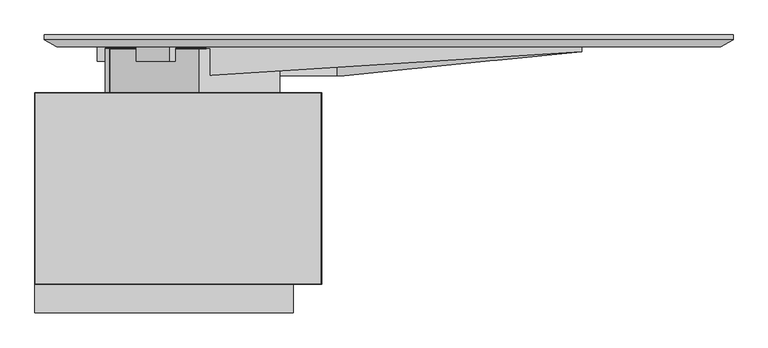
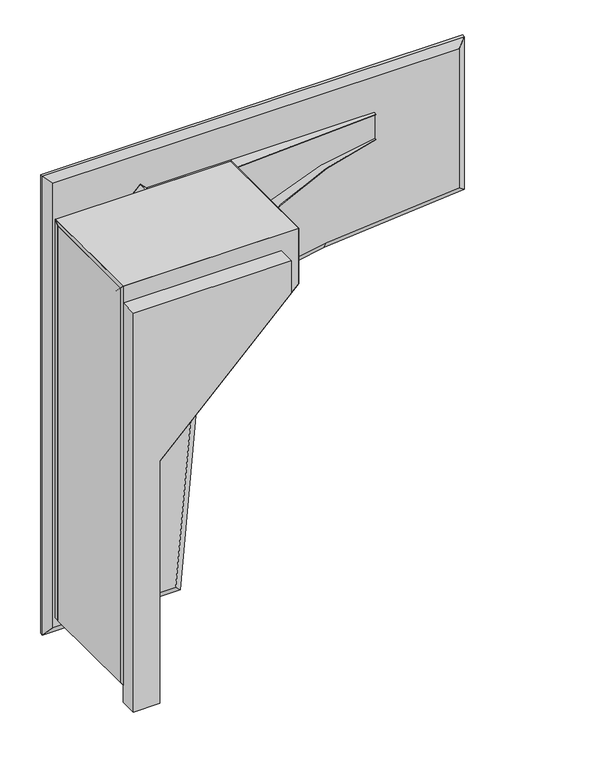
"""IFC4 building model written with IfcOpenShell, lengths in millimetres: proxy geometry, CCN^APOGEE_L1 DESK-ASSEMBLY."""

from ifc_helpers import new_model, si_unit, frame, origin, place, context, project, spatial, polyline, circle_curve, ellipse_curve, outline, extrude, faceted_brep, source, transform, mapped, element, save
from ifc_brep_helpers import plane_surface, cylinder_surface, revolved_surface, advanced_brep


def generic_models_fdecc824(model_context):
    return source(origin(), model_context, "Body", "SolidModel", [
        extrude(outline(polyline([(-2743.2, 490.9058), (-2762.25, 490.9058), (-2762.25, 492.125), (-2743.2, 492.125), (-2743.2, 490.9058)])), frame((0.0, 0.0, 1253.9958833), z_axis=(0.0, 0.0, 1.0), x_axis=(1.0, 0.0, 0.0)), (0.0, 0.0, 1.0), 306.0530667),
        extrude(outline(polyline([(-2743.2, 490.9058), (-2743.2, 22.65045), (-2762.25, 22.65045), (-2762.25, 490.9058), (-2743.2, 490.9058)])), frame((0.0, 0.0, 1560.04895), z_axis=(0.0, 0.0, 1.0), x_axis=(1.0, 0.0, 0.0)), (0.0, 0.0, 1.0), 1.2192),
        extrude(outline(polyline([(-2743.2, 490.9058), (-2743.2, 22.65045), (-2762.25, 22.65045), (-2762.25, 490.9058), (-2743.2, 490.9058)])), frame((0.0, 0.0, 1252.7766833), z_axis=(0.0, 0.0, 1.0), x_axis=(1.0, 0.0, 0.0)), (0.0, 0.0, 1.0), 1.2192),
        extrude(outline(polyline([(-2762.25, 22.65045), (-2743.2, 22.65045), (-2743.2, 21.43125), (-2762.25, 21.43125), (-2762.25, 22.65045)])), frame((0.0, 0.0, 1253.9958833), z_axis=(0.0, 0.0, 1.0), x_axis=(1.0, 0.0, 0.0)), (0.0, 0.0, 1.0), 306.0530667),
        extrude(outline(polyline([(-2743.2, 492.125), (-2743.2, 21.43125), (-2762.25, 21.43125), (-2762.25, 492.125), (-2743.2, 492.125)])), frame((0.0, 0.0, 631.03125), z_axis=(0.0, 0.0, 1.0), x_axis=(1.0, 0.0, 0.0)), (0.0, 0.0, 1.0), 308.4914667),
        extrude(outline(polyline([(-2743.2, 490.9058), (-2743.2, 22.65045), (-2762.25, 22.65045), (-2762.25, 490.9058), (-2743.2, 490.9058)])), frame((0.0, 0.0, 1253.9958833), z_axis=(0.0, 0.0, 1.0), x_axis=(1.0, 0.0, 0.0)), (0.0, 0.0, 1.0), 306.0530667),
        extrude(outline(polyline([(-2743.2, 492.125), (-2743.2, 21.43125), (-2762.25, 21.43125), (-2762.25, 492.125), (-2743.2, 492.125)])), frame((0.0, 0.0, 941.9039667), z_axis=(0.0, 0.0, 1.0), x_axis=(1.0, 0.0, 0.0)), (0.0, 0.0, 1.0), 308.4914667),
        extrude(outline(polyline([(469.9, -19.05), (0.0, -19.05), (0.0, 0.0), (469.9, 0.0), (469.9, -19.05)])), frame((-2672.2200556, 488.95, 1645.7799444), z_axis=(0.7071067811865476, 0.0, 0.7071067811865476), x_axis=(0.0, -1.0, 0.0)), (0.0, 0.0, 1.0), 1.2192),
        extrude(outline(polyline([(0.0, 19.05), (469.9, 19.05), (469.9, 0.0), (0.0, 0.0), (0.0, 19.05)])), frame((-2205.442049, 19.05, 2112.557951), z_axis=(0.7071067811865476, 0.0, 0.7071067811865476), x_axis=(0.0, 1.0, 0.0)), (0.0, 0.0, 1.0), 1.2192),
        extrude(outline(polyline([(1645.7799444, -2672.2200556), (1659.2503286, -2685.6904398), (1582.6907684, -2762.25), (1574.8, -2743.2), (1645.7799444, -2672.2200556)])), frame((0.0, 19.05, 0.0), z_axis=(0.0, 1.0, 0.0), x_axis=(0.0, 0.0, 1.0)), (0.0, 0.0, 1.0), 469.9),
        extrude(outline(polyline([(2126.8904398, -2218.0503286), (2113.4200556, -2204.5799444), (2184.4, -2133.6), (2192.2907684, -2152.65), (2126.8904398, -2218.0503286)])), frame((0.0, 19.05, 0.0), z_axis=(0.0, 1.0, 0.0), x_axis=(0.0, 0.0, 1.0)), (0.0, 0.0, 1.0), 469.9),
        extrude(outline(polyline([(19.05, 2184.9050092), (0.0, 2184.9050092), (0.0, 2438.4), (19.05, 2419.35), (19.05, 2184.9050092)])), frame((-2134.8192, 0.0, 0.0), z_axis=(1.0, 0.0, 0.0), x_axis=(0.0, 1.0, 0.0)), (0.0, 0.0, 1.0), 1.2192),
        extrude(outline(polyline([(-2744.4192, 19.05), (-2744.4192, 0.0), (-2894.3808, 0.0), (-2894.3808, 19.05), (-2744.4192, 19.05)])), frame((0.0, 0.0, 609.6), z_axis=(0.0, 0.0, 1.0), x_axis=(1.0, 0.0, 0.0)), (0.0, 0.0, 1.0), 1.2192),
        extrude(outline(polyline([(0.0, 610.8192), (0.0, 2438.4), (19.05, 2419.35), (19.05, 610.8192), (0.0, 610.8192)])), frame((-2895.6, 0.0, 0.0), z_axis=(1.0, 0.0, 0.0), x_axis=(0.0, 1.0, 0.0)), (0.0, 0.0, 1.0), 1.2192),
        extrude(outline(polyline([(-2744.4192, 0.0), (-2744.4192, 19.05), (-2743.2, 19.05), (-2743.2, 0.0), (-2744.4192, 0.0)])), frame((0.0, 0.0, 610.8192), z_axis=(0.0, 0.0, 1.0), x_axis=(1.0, 0.0, 0.0)), (0.0, 0.0, 1.0), 964.4858092),
        extrude(outline(polyline([(0.0, -9.525), (0.0, 9.525), (1.2192, 9.525), (1.2192, -9.525), (0.0, -9.525)])), frame((-2744.4192, 9.525, 1575.3050092), z_axis=(0.707106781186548, 0.0, 0.7071067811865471), x_axis=(0.7071067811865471, 0.0, -0.707106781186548)), (0.0, 0.0, 1.0), 862.1045876),
        faceted_brep([(-2894.3808, 0.0, 610.8192), (-2744.4192, 0.0, 610.8192), (-2744.4192, 0.0, 1575.3050092), (-2134.8192, 0.0, 2184.9050092), (-2134.8192, 0.0, 2438.4), (-2894.3808, 0.0, 2438.4), (-2744.4192, 19.05, 1575.3050092), (-2744.4192, 19.05, 610.8192), (-2894.3808, 19.05, 610.8192), (-2894.3808, 19.05, 2419.35), (-2134.8192, 19.05, 2419.35), (-2134.8192, 19.05, 2184.9050092)], [[[0, 1, 2, 3, 4, 5]], [[6, 7, 8, 9, 10, 11]], [[3, 2, 6, 11]], [[2, 1, 7, 6]], [[7, 1, 0, 8]], [[9, 5, 4, 10]], [[3, 11, 10, 4]], [[0, 5, 9, 8]]]),
        extrude(outline(polyline([(2196.7373712, -2454.3556628), (2170.4737141, -2480.6193198), (2170.4737141, -2476.7290729), (2146.9849562, -2500.2178308), (2150.8752032, -2500.2178308), (2124.6115461, -2526.4814878), (2124.6115461, -2527.189132), (2096.6811535, -2555.1195246), (2088.1966075, -2555.1195246), (2060.2662149, -2527.189132), (2060.2662149, -2526.4814878), (2050.6052554, -2516.8205283), (2054.4955024, -2516.8205283), (2031.0354813, -2493.3605072), (2031.0354813, -2497.2507541), (2021.3745217, -2487.5897946), (2020.6668776, -2487.5897946), (1992.736485, -2459.659402), (1992.736485, -2451.174856), (2020.6668776, -2423.2444634), (2021.3745217, -2423.2444634), (2047.6381788, -2396.9808064), (2047.6381788, -2400.8710533), (2071.1269367, -2377.3822954), (2067.2366897, -2377.3822954), (2093.5003468, -2351.1186384), (2093.5003468, -2350.4109942), (2121.4307394, -2322.4806016), (2129.9152854, -2322.4806016), (2157.845678, -2350.4109942), (2157.845678, -2351.1186384), (2167.5066375, -2360.7795979), (2163.6163905, -2360.7795979), (2187.0764116, -2384.239619), (2187.0764116, -2380.3493721), (2196.7373712, -2390.0103316), (2197.4450153, -2390.0103316), (2225.3754079, -2417.9407242), (2225.3754079, -2426.4252702), (2197.4450153, -2454.3556628), (2196.7373712, -2454.3556628)])), frame((0.0, 8.001, 0.0), z_axis=(0.0, 1.0, 0.0), x_axis=(0.0, 0.0, 1.0)), (0.0, 0.0, 1.0), 566.19902),
        extrude(outline(polyline([(9.525, 0.0), (-9.525, 0.0), (-9.525, 1.2192), (9.525, 1.2192), (9.525, 0.0)])), frame((-2443.4311885, 484.5558, 1888.0391957), z_axis=(0.7071067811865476, 0.0, 0.7071067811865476), x_axis=(0.7071067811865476, 0.0, -0.7071067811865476)), (0.0, 0.0, 1.0), 323.4420188),
        extrude(outline(polyline([(463.12455, 0.0), (1.2192, 0.0), (1.2192, 19.05), (463.12455, 19.05), (463.12455, 0.0)])), frame((-2207.9879516, 21.43125, 2110.0120484), z_axis=(0.7071067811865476, 0.0, 0.7071067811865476), x_axis=(0.0, 1.0, 0.0)), (0.0, 0.0, 1.0), 1.2192),
        extrude(outline(polyline([(1.2192, 0.0), (463.12455, 0.0), (463.12455, -19.05), (1.2192, -19.05), (1.2192, 0.0)])), frame((-2437.558101, 485.775, 1880.441899), z_axis=(0.7071067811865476, 0.0, 0.7071067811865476), x_axis=(0.0, -1.0, 0.0)), (0.0, 0.0, 1.0), 1.2192),
        extrude(outline(polyline([(-9.525, 0.0), (9.525, 0.0), (9.525, -1.2192), (-9.525, -1.2192), (-9.525, 0.0)])), frame((-2443.4311885, 22.65045, 1888.0391957), z_axis=(0.7071067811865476, 0.0, 0.7071067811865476), x_axis=(0.7071067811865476, 0.0, -0.7071067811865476)), (0.0, 0.0, 1.0), 323.4420188),
        extrude(outline(polyline([(1.2192, 0.0), (463.12455, 0.0), (463.12455, -19.05), (1.2192, -19.05), (1.2192, 0.0)])), frame((-2436.6959964, 485.775, 1881.3040036), z_axis=(0.7071067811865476, 0.0, 0.7071067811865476), x_axis=(0.0, -1.0, 0.0)), (0.0, 0.0, 1.0), 323.4420188),
        extrude(outline(polyline([(0.0, 0.0), (464.34375, 0.0), (464.34375, -19.05), (0.0, -19.05), (0.0, 0.0)])), frame((-2669.674153, 485.775, 1648.325847), z_axis=(0.7071067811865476, 0.0, 0.7071067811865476), x_axis=(0.0, -1.0, 0.0)), (0.0, 0.0, 1.0), 325.8804188),
        extrude(outline(polyline([(1966.2204827, -2472.9887962), (2369.7816865, -2876.55), (2342.8409182, -2876.55), (1952.7500985, -2486.4591804), (1966.2204827, -2472.9887962)])), frame((0.0, 19.05, 0.0), z_axis=(0.0, 1.0, 0.0), x_axis=(0.0, 0.0, 1.0)), (0.0, 0.0, 1.0), 469.9),
        advanced_brep(
        [(-2458.3469688, 623.8875, 2342.5726582), (-2093.3135115, 623.8875, 1977.5392009), (-1443.447468, 623.8875, 2230.938548), (-1443.447468, 623.8875, 2342.5726582), (-2093.3135115, 554.0375, 1977.5392009), (-2074.0665247, 554.0375, 1992.2118285), (-1443.447468, 617.5375, 2230.938548), (-1443.447468, 630.2375, 2345.2294982), (-1443.447468, 630.2375, 2228.2726582), (-2091.420239, 630.2375, 1975.6459284), (-2305.390045, 630.2375, 1761.6761223), (-2558.0167749, 630.2375, 1113.7033513), (-2674.9736149, 630.2375, 1113.7033513), (-2674.9736149, 630.2375, 2129.7033513), (-2459.447468, 630.2375, 2345.2294982), (-2560.6826647, 623.8875, 1113.7033513), (-2307.2833176, 623.8875, 1763.5693949), (-2672.3167749, 623.8875, 2128.6028522), (-2672.3167749, 623.8875, 1113.7033513), (-2307.2833176, 554.0375, 1763.5693949), (-2672.3167749, 554.0375, 2128.6028522), (-2458.3469688, 554.0375, 2342.5726582), (-2446.747468, 554.0375, 2342.5726582), (-2446.747468, 554.0375, 2345.2294982), (-2459.447468, 554.0375, 2345.2294982), (-2674.9736149, 554.0375, 2129.7033513), (-2674.9736149, 554.0375, 2117.0033513), (-2672.3167749, 554.0375, 2117.0033513), (-2321.9559452, 554.0375, 1744.322408), (-2318.6379862, 554.0375, 1744.322408), (-2305.390045, 554.0375, 1761.6761223), (-2091.420239, 554.0375, 1975.6459284), (-2074.0665247, 554.0375, 1988.8938696), (-1443.447468, 617.5375, 2228.2726582), (-2672.3167749, 617.5375, 1113.7033513), (-2674.9736149, 617.5375, 1113.7033513), (-1443.447468, 617.5375, 2342.5726582), (-1443.447468, 617.5375, 2345.2294982), (-2558.0167749, 617.5375, 1113.7033513), (-2560.6826647, 617.5375, 1113.7033513)],
        [
            (0, 1),
            (1, 2, circle_curve(frame((-1342.9645827, 623.8875, 1013.220466), z_axis=(0.0, 1.0000000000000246, 0.0), x_axis=(0.0822378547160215, 0.0, -0.9966127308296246)), 1221.85684)),
            (2, 3),
            (3, 0),
            (1, 4),
            (4, 5, circle_curve(frame((-1342.9645827, 554.0375, 1013.220466), z_axis=(0.0, 1.0000000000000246, 0.0), x_axis=(0.0822378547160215, 0.0, -0.9966127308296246)), 1221.85684)),
            (5, 6, ellipse_curve(frame((-1342.9645827, 627.6555945, 1013.220466), z_axis=(-0.10018806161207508, 0.9949685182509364, 0.0), x_axis=(0.9949685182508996, 0.10018806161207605, 0.0)), 1228.0356791, 1221.85684)),
            (6, 2),
            (7, 8),
            (8, 9, circle_curve(frame((-1342.9645827, 630.2375, 1013.220466), z_axis=(0.0, -1.0000000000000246, 0.0), x_axis=(-0.08241706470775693, 0.0, 0.9965979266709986)), 1219.2)),
            (9, 10),
            (10, 11, circle_curve(frame((-1342.9645827, 630.2375, 1013.220466), z_axis=(0.0, -1.0000000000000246, 0.0), x_axis=(-0.08241706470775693, 0.0, 0.9965979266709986)), 1219.2)),
            (11, 12),
            (12, 13),
            (13, 14),
            (14, 7),
            (15, 16, circle_curve(frame((-1342.9645827, 623.8875, 1013.220466), z_axis=(0.0, 1.0000000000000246, 0.0), x_axis=(0.0822378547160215, 0.0, -0.9966127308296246)), 1221.85684)),
            (16, 17),
            (17, 18),
            (18, 15),
            (16, 19),
            (19, 20),
            (20, 17),
            (4, 21),
            (21, 22),
            (22, 23),
            (23, 24),
            (24, 25),
            (25, 26),
            (26, 27),
            (27, 20),
            (19, 28, circle_curve(frame((-1342.9645827, 554.0375, 1013.220466), z_axis=(0.0, -1.0000000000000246, 0.0), x_axis=(0.0822378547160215, 0.0, -0.9966127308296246)), 1221.85684)),
            (28, 29),
            (29, 30, circle_curve(frame((-1342.9645827, 554.0375, 1013.220466), z_axis=(0.0, 1.0000000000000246, 0.0), x_axis=(-0.08241706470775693, 0.0, 0.9965979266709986)), 1219.2)),
            (30, 31),
            (31, 32, circle_curve(frame((-1342.9645827, 554.0375, 1013.220466), z_axis=(0.0, 1.0000000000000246, 0.0), x_axis=(-0.08241706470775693, 0.0, 0.9965979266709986)), 1219.2)),
            (32, 5),
            (30, 10),
            (9, 31),
            (8, 33),
            (33, 32, ellipse_curve(frame((-1342.9645827, 627.6555945, 1013.220466), z_axis=(0.10018806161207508, -0.9949685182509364, 0.0), x_axis=(0.9949685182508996, 0.10018806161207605, 0.0)), 1225.3654037, 1219.2)),
            (34, 27),
            (26, 35),
            (35, 34),
            (25, 13),
            (12, 35),
            (22, 36),
            (36, 37),
            (37, 23),
            (36, 3),
            (6, 33),
            (7, 37),
            (21, 0),
            (38, 29, ellipse_curve(frame((-1342.9645827, 627.6555945, 1013.220466), z_axis=(0.0, 0.9949685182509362, 0.10018806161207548), x_axis=(0.0, 0.1001880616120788, -0.9949685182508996)), 1225.3654037, 1219.2)),
            (28, 39, ellipse_curve(frame((-1342.9645827, 627.6555945, 1013.220466), z_axis=(0.0, -0.9949685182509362, -0.10018806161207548), x_axis=(0.0, 0.1001880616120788, -0.9949685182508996)), 1228.0356791, 1221.85684)),
            (39, 38),
            (15, 39),
            (38, 11),
            (14, 24),
            (34, 18),
        ],
        [
            plane_surface(frame((-1482.4613443, 623.8875, 2287.5512931), z_axis=(0.0, -1.0000000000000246, 0.0), x_axis=(0.7523994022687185, 0.0, -0.6587071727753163))),
            cylinder_surface(frame((-1342.9645827, 554.0375, 1013.220466), z_axis=(0.0, 1.0000000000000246, 0.0), x_axis=(0.0822378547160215, 0.0, -0.9966127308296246)), 1221.85684),
            plane_surface(frame((-2345.107517, 630.2375, 2015.3634004), z_axis=(0.0, 1.0000000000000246, 0.0), x_axis=(0.7523994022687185, 0.0, -0.6587071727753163))),
            plane_surface(frame((-2651.2747259, 623.8875, 2056.7608032), z_axis=(0.0, -1.0000000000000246, 0.0), x_axis=(-0.7523994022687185, 0.0, 0.6587071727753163))),
            plane_surface(frame((-2672.3167749, 554.0375, 2128.6028522), z_axis=(-0.7071067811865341, 0.0, -0.7071067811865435), x_axis=(0.0, 1.0000000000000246, 0.0))),
            plane_surface(frame((-2345.107517, 554.0375, 2015.3634004), z_axis=(0.0, -1.0000000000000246, 0.0), x_axis=(-0.7523994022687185, 0.0, 0.6587071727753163))),
            plane_surface(frame((-2091.420239, 554.0375, 1975.6459284), z_axis=(0.7071067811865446, 0.0, -0.707106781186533), x_axis=(-0.707106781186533, 0.0, -0.7071067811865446))),
            revolved_surface(polyline([(-1443.4474679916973, 750.4225790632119, 2228.2726581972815), (-1443.4474679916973, 504.88860993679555, 2228.2726581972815)]), (-1342.9645827, 554.0375, 1013.220466), (0.0, 1.0000000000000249, 0.0)),
            plane_surface(frame((-2674.9736149, 617.5375, 1113.7033513), z_axis=(0.0, -0.9980031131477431, -0.06316475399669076), x_axis=(0.0, -0.06316475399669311, 0.9980031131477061))),
            plane_surface(frame((-2674.9736149, 630.2375, 2129.7033513), z_axis=(-0.9999999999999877, 0.0, 0.0), x_axis=(0.0, 0.0, -0.9999999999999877))),
            plane_surface(frame((-2446.747468, 554.0375, 2345.2294982), z_axis=(0.06316475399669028, -0.9980031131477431, 0.0), x_axis=(0.9980031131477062, 0.06316475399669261, 0.0))),
            plane_surface(frame((-1443.447468, 554.0375, 2230.938548), z_axis=(0.9999999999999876, 0.0, 0.0), x_axis=(0.0, 0.0, -0.9999999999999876))),
            plane_surface(frame((-2458.3469688, 630.2375, 2342.5726582), z_axis=(0.0, 0.0, -0.9999999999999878), x_axis=(0.9999999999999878, 0.0, 0.0))),
            plane_surface(frame((-2510.040566, 585.7875, 1429.0128797), z_axis=(0.0, -0.9949685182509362, -0.10018806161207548), x_axis=(-0.7507497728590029, -0.06618290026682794, 0.6572629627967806))),
            plane_surface(frame((-1758.7569963, 585.7875, 2123.1509742), z_axis=(0.10018806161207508, -0.9949685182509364, 0.0), x_axis=(-0.7502492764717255, -0.0755461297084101, 0.6568247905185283))),
            plane_surface(frame((-2458.3469688, 630.2375, 2342.5726582), z_axis=(0.7071067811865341, 0.0, 0.7071067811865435), x_axis=(0.0, -1.0000000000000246, 0.0))),
            revolved_surface(polyline([(-1443.4474679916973, 750.4225790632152, 2228.2726581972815), (-1443.4474679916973, 504.88860993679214, 2228.2726581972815)]), (-1342.9645827, 554.0375, 1013.220466), (0.0, 1.0000000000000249, 0.0)),
            plane_surface(frame((-1443.447468, 630.2375, 2345.2294982), z_axis=(0.0, 0.0, 0.9999999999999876), x_axis=(-0.9999999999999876, 0.0, 0.0))),
            plane_surface(frame((-2672.3167749, 630.2375, 1113.7033513), z_axis=(0.9999999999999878, 0.0, 0.0), x_axis=(0.0, 0.0, 0.9999999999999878))),
            plane_surface(frame((-2674.9736149, 630.2375, 1113.7033513), z_axis=(0.0, 0.0, -0.9999999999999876), x_axis=(0.9999999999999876, 0.0, 0.0))),
            plane_surface(frame((-2459.447468, 630.2375, 2345.2294982), z_axis=(-0.707106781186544, 0.0, 0.7071067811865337), x_axis=(-0.7071067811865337, 0.0, -0.707106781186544))),
        ],
        [
            (0, [[1, 2, 3, 4]]),
            (1, [[-2, 5, 6, 7, 8]]),
            (2, [[9, 10, 11, 12, 13, 14, 15, 16]]),
            (3, [[17, 18, 19, 20]]),
            (4, [[-18, 21, 22, 23]]),
            (5, [[24, 25, 26, 27, 28, 29, 30, 31, -22, 32, 33, 34, 35, 36, 37, -6]]),
            (6, [[-35, 38, -11, 39]]),
            (7, [[-39, -10, 40, 41, -36]]),
            (8, [[42, -30, 43, 44]]),
            (9, [[-43, -29, 45, -14, 46]]),
            (10, [[47, 48, 49, -26]]),
            (11, [[-48, 50, -3, -8, 51, -40, -9, 52]]),
            (12, [[-4, -50, -47, -25, 53]]),
            (13, [[54, -33, 55, 56]]),
            (1, [[-17, 57, -55, -32, -21]]),
            (14, [[-41, -51, -7, -37]]),
            (15, [[-1, -53, -24, -5]]),
            (16, [[-38, -34, -54, 58, -12]]),
            (17, [[-49, -52, -16, 59, -27]]),
            (18, [[-19, -23, -31, -42, 60]]),
            (19, [[-44, -46, -13, -58, -56, -57, -20, -60]]),
            (20, [[-15, -45, -28, -59]]),
        ],
    ),
        advanced_brep(
        [(-2837.2044321, 630.2375, 470.1337677), (-2303.1507919, 630.2375, 470.1337677), (-2236.0454506, 630.2375, 1237.1513283), (-1651.9010468, 630.2375, 1821.295732), (-1074.7946825, 630.2375, 1871.7859965), (-1074.7946825, 630.2375, 2507.4603155), (-2837.2044321, 630.2375, 2507.4603155), (-2272.9159244, 661.9875, 437.1381998), (-2870.2, 661.9875, 437.1381998), (-2870.2, 661.9875, 2540.4558833), (-1041.7991147, 661.9875, 2540.4558833), (-1041.7991147, 661.9875, 1841.5511291), (-1649.0252936, 661.9875, 1788.4257222), (-2203.1754408, 661.9875, 1234.275575), (-2272.9159244, 649.2875, 437.1381998), (-2870.2, 649.2875, 437.1381998), (-2203.1754408, 649.2875, 1234.275575), (-2870.2, 649.2875, 2540.4558833), (-1041.7991147, 649.2875, 2540.4558833), (-1041.7991147, 649.2875, 1841.5511291), (-1649.0252936, 649.2875, 1788.4257222)],
        [
            (0, 1),
            (1, 2),
            (2, 3, circle_curve(frame((-1595.8951528, 630.2375, 1181.1454343), z_axis=(0.0, 1.0000000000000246, 0.0), x_axis=(-0.08715574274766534, 0.0, 0.9961946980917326)), 642.5955679)),
            (3, 4),
            (4, 5),
            (5, 6),
            (6, 0),
            (7, 8),
            (8, 9),
            (9, 10),
            (10, 11),
            (11, 12),
            (12, 13, circle_curve(frame((-1595.8951528, 661.9875, 1181.1454343), z_axis=(0.0, -1.0000000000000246, 0.0), x_axis=(-0.9961946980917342, 0.0, 0.08715574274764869)), 609.6)),
            (13, 7),
            (7, 14),
            (14, 15),
            (15, 8),
            (1, 14),
            (14, 16),
            (16, 2),
            (15, 17),
            (17, 9),
            (15, 0),
            (6, 17),
            (10, 18),
            (18, 19),
            (19, 11),
            (18, 5),
            (4, 19),
            (18, 17),
            (19, 20),
            (20, 12),
            (3, 20),
            (13, 16),
            (16, 20, circle_curve(frame((-1595.8951528, 649.2875, 1181.1454343), z_axis=(0.0, 1.0000000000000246, 0.0), x_axis=(-0.08715574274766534, 0.0, 0.9961946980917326)), 609.6)),
        ],
        [
            plane_surface(frame((-2152.4540813, 630.2375, 1677.4173598), z_axis=(0.0, -1.0000000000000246, 0.0), x_axis=(0.7523994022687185, 0.0, -0.6587071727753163))),
            plane_surface(frame((-2152.4540813, 661.9875, 1677.4173598), z_axis=(0.0, 1.0000000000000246, 0.0), x_axis=(0.7523994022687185, 0.0, -0.6587071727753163))),
            plane_surface(frame((-2412.5647953, 630.2375, 437.1381998), z_axis=(0.0, 0.0, -0.9999999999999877), x_axis=(-0.9999999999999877, 0.0, 0.0))),
            plane_surface(frame((-2200.180112, 639.7625, 1457.8031821), z_axis=(0.49809734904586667, -0.8660254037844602, -0.04357787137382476), x_axis=(-0.6820143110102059, -0.4223078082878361, 0.5970867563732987))),
            plane_surface(frame((-2870.2, 630.2375, 589.5381998), z_axis=(-0.9999999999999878, 0.0, 0.0), x_axis=(0.0, 0.0, 0.9999999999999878))),
            plane_surface(frame((-2853.7022161, 639.7625, 1133.4777798), z_axis=(-0.49999999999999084, -0.8660254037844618, 0.0), x_axis=(-0.6900999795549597, 0.39842940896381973, 0.6041655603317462))),
            plane_surface(frame((-2282.5094383, 639.7625, 453.6359837), z_axis=(0.0, -0.8660254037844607, -0.4999999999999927), x_axis=(-0.703259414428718, -0.3554666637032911, 0.6156863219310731))),
            plane_surface(frame((-1041.7991147, 630.2375, 2388.0558833), z_axis=(0.9999999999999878, 0.0, 0.0), x_axis=(0.0, 0.0, -0.9999999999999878))),
            plane_surface(frame((-1058.2968986, 639.7625, 2032.7366216), z_axis=(0.49999999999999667, -0.8660254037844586, 0.0), x_axis=(0.0, 0.0, -0.9999999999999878))),
            plane_surface(frame((-2282.7270407, 639.7625, 2523.9580994), z_axis=(0.0, -0.8660254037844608, 0.4999999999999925), x_axis=(-0.7032594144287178, 0.35546666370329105, 0.6156863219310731))),
            plane_surface(frame((-1180.9165795, 630.2375, 1829.379928), z_axis=(0.0871557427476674, 0.0, -0.9961946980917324), x_axis=(-0.9961946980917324, 0.0, -0.0871557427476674))),
            plane_surface(frame((-1671.0302534, 639.7625, 1803.0613405), z_axis=(0.04357787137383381, -0.8660254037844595, -0.49809734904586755), x_axis=(-0.9961946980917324, 0.0, -0.0871557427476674))),
            plane_surface(frame((-2413.0, 630.2375, 2540.4558833), z_axis=(0.0, 0.0, 0.9999999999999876), x_axis=(0.9999999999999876, 0.0, 0.0))),
            plane_surface(frame((-2203.1754408, 630.2375, 1234.275575), z_axis=(0.996194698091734, 0.0, -0.08715574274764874), x_axis=(-0.08715574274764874, 0.0, -0.996194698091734))),
            revolved_surface(polyline([(-1651.9010468, 630.2375, 1821.295732), (-1649.0252935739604, 649.2874999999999, 1788.4257222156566)]), (-1595.8951528, 1001.2402241, 1181.1454343), (0.0, -1.0000000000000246, 0.0)),
            revolved_surface(polyline([(-2203.1754407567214, 661.9875000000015, 1234.2755750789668), (-2203.1754407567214, 649.2875000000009, 1234.2755750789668)]), (-1595.8951528, 630.2375, 1181.1454343), (0.0, 1.0000000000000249, 0.0)),
        ],
        [
            (0, [[1, 2, 3, 4, 5, 6, 7]]),
            (1, [[8, 9, 10, 11, 12, 13, 14]]),
            (2, [[-8, 15, 16, 17]]),
            (3, [[18, 19, 20, -2]]),
            (4, [[-9, -17, 21, 22]]),
            (5, [[-21, 23, -7, 24]]),
            (6, [[-16, -18, -1, -23]]),
            (7, [[-11, 25, 26, 27]]),
            (8, [[-26, 28, -5, 29]]),
            (9, [[-28, 30, -24, -6]]),
            (10, [[-12, -27, 31, 32]]),
            (11, [[-31, -29, -4, 33]]),
            (12, [[-10, -22, -30, -25]]),
            (13, [[-14, 34, -19, -15]]),
            (14, [[-33, -3, -20, 35]]),
            (15, [[-35, -34, -13, -32]]),
        ],
    ),
        extrude(outline(polyline([(-27.0536458, -11.0463542), (-27.0536458, 27.0536458), (11.0463542, 27.0536458), (11.0463542, -11.0463542), (-27.0536458, -11.0463542)])), frame((-2544.8776173, 619.1911458, 1868.0052924), z_axis=(0.7071067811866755, 0.0, 0.7071067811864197), x_axis=(-0.7071067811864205, 0.0, 0.7071067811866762)), (0.0, 0.0, 1.0), 76.2),
        extrude(outline(polyline([(2373.8845975, -2458.7317416), (2137.0052242, -2695.6111149), (2119.0447119, -2695.6111149), (2355.9240852, -2458.7317416), (2373.8845975, -2458.7317416)])), frame((0.0, 625.8433, 0.0), z_axis=(0.0, 1.0, 0.0), x_axis=(0.0, 0.0, 1.0)), (0.0, 0.0, 1.0), 1.2192),
        extrude(outline(polyline([(2373.8845975, -2458.7317416), (2137.0052242, -2695.6111149), (2119.0447119, -2695.6111149), (2355.9240852, -2458.7317416), (2373.8845975, -2458.7317416)])), frame((0.0, 69.4817, 0.0), z_axis=(0.0, 1.0, 0.0), x_axis=(0.0, 0.0, 1.0)), (0.0, 0.0, 1.0), 556.3616),
        extrude(outline(polyline([(38.1, 0.0), (38.1, -76.2), (0.0, -76.2), (0.0, 0.0), (38.1, 0.0)])), frame((-2602.0799779, 630.2375, 1857.8557321), z_axis=(0.7071067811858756, 0.0, 0.7071067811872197), x_axis=(0.0, -0.9999999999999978, 0.0)), (0.0, 0.0, 1.0), 38.1),
        extrude(outline(polyline([(0.0, 0.0), (38.1, 0.0), (38.1, -127.0000001), (0.0, -127.0000001), (0.0, 0.0)])), frame((-2359.9489242, 592.1375, 2252.6511399), z_axis=(0.7071067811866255, 0.0, 0.7071067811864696), x_axis=(0.0, 1.0000000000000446, 0.0)), (0.0, 0.0, 1.0), 38.1),
        extrude(outline(polyline([(2347.0713488, -2449.8790051), (2356.0516049, -2440.898749), (2373.8845975, -2458.7317416), (2355.9240852, -2458.7317416), (2347.0713488, -2449.8790051)])), frame((0.0, 625.8433, 0.0), z_axis=(0.0, 1.0, 0.0), x_axis=(0.0, 0.0, 1.0)), (0.0, 0.0, 1.0), 1.2192),
        extrude(outline(polyline([(2160.6035146, -2245.4506587), (2373.8845975, -2458.7317416), (2160.6035146, -2458.7317416), (2160.6035146, -2245.4506587)])), frame((0.0, 69.4817, 0.0), z_axis=(0.0, 1.0, 0.0), x_axis=(0.0, 0.0, 1.0)), (0.0, 0.0, 1.0), 556.3616),
        extrude(outline(polyline([(0.0, 278.1808), (0.0, -278.1808), (-1.2192, -278.1808), (-1.2192, 278.1808), (0.0, 278.1808)])), frame((-2708.3111149, 347.6625, 2122.581015), z_axis=(0.7071067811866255, 0.0, 0.7071067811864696), x_axis=(0.7071067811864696, 0.0, -0.7071067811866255)), (0.0, 0.0, 1.0), 17.9605122),
        extrude(outline(polyline([(2122.581015, -2708.3111149), (1995.5177655, -2708.3111149), (2000.7782777, -2695.6111149), (2135.281015, -2695.6111149), (2122.581015, -2708.3111149)])), frame((0.0, 625.8433, 0.0), z_axis=(0.0, 1.0, 0.0), x_axis=(0.0, 0.0, 1.0)), (0.0, 0.0, 1.0), 1.2192),
        extrude(outline(polyline([(2122.581015, -2708.3111149), (1995.5177655, -2708.3111149), (2000.7782777, -2695.6111149), (2135.281015, -2695.6111149), (2122.581015, -2708.3111149)])), frame((0.0, 69.4817, 0.0), z_axis=(0.0, 1.0, 0.0), x_axis=(0.0, 0.0, 1.0)), (0.0, 0.0, 1.0), 556.3616),
        extrude(outline(polyline([(1846.630412, -2559.4237613), (2160.6035146, -2245.4506587), (2160.6035146, -2559.4237613), (1846.630412, -2559.4237613)])), frame((0.0, 69.4817, 0.0), z_axis=(0.0, 1.0, 0.0), x_axis=(0.0, 0.0, 1.0)), (0.0, 0.0, 1.0), 556.3616),
        extrude(outline(polyline([(11.0463541, 11.0463542), (11.0463541, -27.0536458), (-27.0536458, -27.0536458), (-27.0536458, 11.0463542), (11.0463541, 11.0463542)])), frame((-2607.9817274, 619.1911458, 2217.8058752), z_axis=(0.7071067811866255, 0.0, 0.7071067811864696), x_axis=(0.7071067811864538, 0.0, -0.7071067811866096)), (0.0, 0.0, 1.0), 127.0),
        extrude(outline(polyline([(-2692.4361149, 630.2375), (-2692.4361149, 592.1375), (-2730.5361149, 592.1375), (-2730.5361149, 630.2375), (-2692.4361149, 630.2375)])), frame((0.0, 0.0, 2026.1782777), z_axis=(0.0, 0.0, 1.0), x_axis=(1.0, 0.0, 0.0)), (0.0, 0.0, 1.0), 76.2),
        extrude(outline(polyline([(1972.2830536, -2685.076403), (1981.2633097, -2676.0961469), (2000.7782777, -2695.6111149), (1995.5177655, -2708.3111149), (1972.2830536, -2685.076403)])), frame((0.0, 625.8433, 0.0), z_axis=(0.0, 1.0, 0.0), x_axis=(0.0, 0.0, 1.0)), (0.0, 0.0, 1.0), 1.2192),
        extrude(outline(polyline([(1995.5177655, -2708.3111149), (1846.630412, -2559.4237613), (1864.5909242, -2559.4237613), (2000.7782777, -2695.6111149), (1995.5177655, -2708.3111149)])), frame((0.0, 69.4817, 0.0), z_axis=(0.0, 1.0, 0.0), x_axis=(0.0, 0.0, 1.0)), (0.0, 0.0, 1.0), 556.3616),
        extrude(outline(polyline([(-2763.4692, 19.05), (-2763.4692, 488.95), (-2762.25, 488.95), (-2762.25, 19.05), (-2763.4692, 19.05)])), frame((0.0, 0.0, 609.6), z_axis=(0.0, 0.0, 1.0), x_axis=(1.0, 0.0, 0.0)), (0.0, 0.0, 1.0), 19.05),
        extrude(outline(polyline([(-2743.2, 488.95), (-2743.2, 19.05), (-2762.25, 19.05), (-2762.25, 488.95), (-2743.2, 488.95)])), frame((0.0, 0.0, 1563.6494), z_axis=(0.0, 0.0, 1.0), x_axis=(1.0, 0.0, 0.0)), (0.0, 0.0, 1.0), 1.2192),
        extrude(outline(polyline([(1564.8686, -2762.25), (1564.8686, -2743.2), (1574.8, -2743.2), (1582.6907684, -2762.25), (1564.8686, -2762.25)])), frame((0.0, 19.05, 0.0), z_axis=(0.0, 1.0, 0.0), x_axis=(0.0, 0.0, 1.0)), (0.0, 0.0, 1.0), 469.9),
        extrude(outline(polyline([(2192.2907684, -2152.65), (2184.4, -2133.6), (2419.35, -2133.6), (2419.35, -2152.65), (2192.2907684, -2152.65)])), frame((0.0, 19.05, 0.0), z_axis=(0.0, 1.0, 0.0), x_axis=(0.0, 0.0, 1.0)), (0.0, 0.0, 1.0), 469.9),
        extrude(outline(polyline([(533.4, -2781.3), (1644.4630735, -2781.3), (2215.9630735, -2209.8), (2362.2, -2209.8), (2362.2, -2895.6), (533.4, -2895.6), (533.4, -2781.3)])), frame((0.0, -76.2, 0.0), z_axis=(0.0, 1.0, 0.0), x_axis=(0.0, 0.0, 1.0)), (0.0, 0.0, 1.0), 76.2),
        extrude(outline(polyline([(-2744.4192, 488.95), (-2744.4192, 508.0), (-2743.2, 508.0), (-2743.2, 488.95), (-2744.4192, 488.95)])), frame((0.0, 0.0, 610.8192), z_axis=(0.0, 0.0, 1.0), x_axis=(1.0, 0.0, 0.0)), (0.0, 0.0, 1.0), 964.4858092),
        extrude(outline(polyline([(0.0, -9.525), (0.0, 9.525), (1.2192, 9.525), (1.2192, -9.525), (0.0, -9.525)])), frame((-2744.4192, 498.475, 1575.3050092), z_axis=(0.7071067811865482, 0.0, 0.7071067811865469), x_axis=(0.7071067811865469, 0.0, -0.7071067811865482)), (0.0, 0.0, 1.0), 862.1045876),
        extrude(outline(polyline([(488.95, 2419.35), (508.0, 2438.4), (508.0, 610.8192), (488.95, 610.8192), (488.95, 2419.35)])), frame((-2895.6, 0.0, 0.0), z_axis=(1.0, 0.0, 0.0), x_axis=(0.0, 1.0, 0.0)), (0.0, 0.0, 1.0), 1.2192),
        extrude(outline(polyline([(-2894.3808, 508.0), (-2744.4192, 508.0), (-2744.4192, 488.95), (-2894.3808, 488.95), (-2894.3808, 508.0)])), frame((0.0, 0.0, 609.6), z_axis=(0.0, 0.0, 1.0), x_axis=(1.0, 0.0, 0.0)), (0.0, 0.0, 1.0), 1.2192),
        extrude(outline(polyline([(488.95, 2419.35), (508.0, 2438.4), (508.0, 2184.9050092), (488.95, 2184.9050092), (488.95, 2419.35)])), frame((-2134.8192, 0.0, 0.0), z_axis=(1.0, 0.0, 0.0), x_axis=(0.0, 1.0, 0.0)), (0.0, 0.0, 1.0), 1.2192),
        faceted_brep([(-2744.4192, 508.0, 610.8192), (-2894.3808, 508.0, 610.8192), (-2894.3808, 508.0, 2438.4), (-2134.8192, 508.0, 2438.4), (-2134.8192, 508.0, 2184.9050092), (-2744.4192, 508.0, 1575.3050092), (-2134.8192, 488.95, 2419.35), (-2894.3808, 488.95, 2419.35), (-2894.3808, 488.95, 610.8192), (-2744.4192, 488.95, 610.8192), (-2744.4192, 488.95, 1575.3050092), (-2134.8192, 488.95, 2184.9050092)], [[[0, 1, 2, 3, 4, 5]], [[6, 7, 8, 9, 10, 11]], [[2, 7, 6, 3]], [[7, 2, 1, 8]], [[3, 6, 11, 4]], [[5, 4, 11, 10]], [[0, 5, 10, 9]], [[1, 0, 9, 8]]]),
        extrude(outline(polyline([(488.95, 2419.35), (19.05, 2419.35), (0.0, 2438.4), (508.0, 2438.4), (488.95, 2419.35)])), frame((-2134.8192, 0.0, 0.0), z_axis=(1.0, 0.0, 0.0), x_axis=(0.0, 1.0, 0.0)), (0.0, 0.0, 1.0), 1.2192),
        extrude(outline(polyline([(508.0, 2438.4), (254.0, 2184.4), (0.0, 2438.4), (508.0, 2438.4)])), frame((-2894.3808, 0.0, 0.0), z_axis=(1.0, 0.0, 0.0), x_axis=(0.0, 1.0, 0.0)), (0.0, 0.0, 1.0), 759.5616),
        extrude(outline(polyline([(508.0, 2438.4), (488.95, 2419.35), (19.05, 2419.35), (0.0, 2438.4), (508.0, 2438.4)])), frame((-2895.6, 0.0, 0.0), z_axis=(1.0, 0.0, 0.0), x_axis=(0.0, 1.0, 0.0)), (0.0, 0.0, 1.0), 1.2192),
        extrude(outline(polyline([(-2876.55, 19.05), (-2895.6, 19.05), (-2895.6, 488.95), (-2876.55, 488.95), (-2876.55, 19.05)])), frame((0.0, 0.0, 609.6), z_axis=(0.0, 0.0, 1.0), x_axis=(1.0, 0.0, 0.0)), (0.0, 0.0, 1.0), 1809.75),
    ])


if __name__ == "__main__":
    model = new_model("IFC4")
    model_context = context("Model", 3, world=origin())
    ifc_project = project(units=[si_unit("LENGTHUNIT", "METRE", prefix="MILLI")], contexts=[model_context])
    site = spatial("IfcSite", under=ifc_project)
    building = spatial("IfcBuilding", under=site)
    placement = place(None, origin())
    generic_models_shape = generic_models_fdecc824(model_context)
    element("IfcBuildingElementProxy", 1, Name="CCN^APOGEE_L1 DESK-ASSEMBLY", ObjectType="CCN^APOGEE_L1 DESK-ASSEMBLY", at=placement, inside=building, context=model_context, shape_type="MappedRepresentation", body=[
        mapped(generic_models_shape, transform((0.0, 0.0, 0.0), x_axis=(1.0, 0.0, 0.0), y_axis=(0.0, 1.0, 0.0), z_axis=(0.0, 0.0, 1.0))),
    ])
    save(model, "model.ifc")
